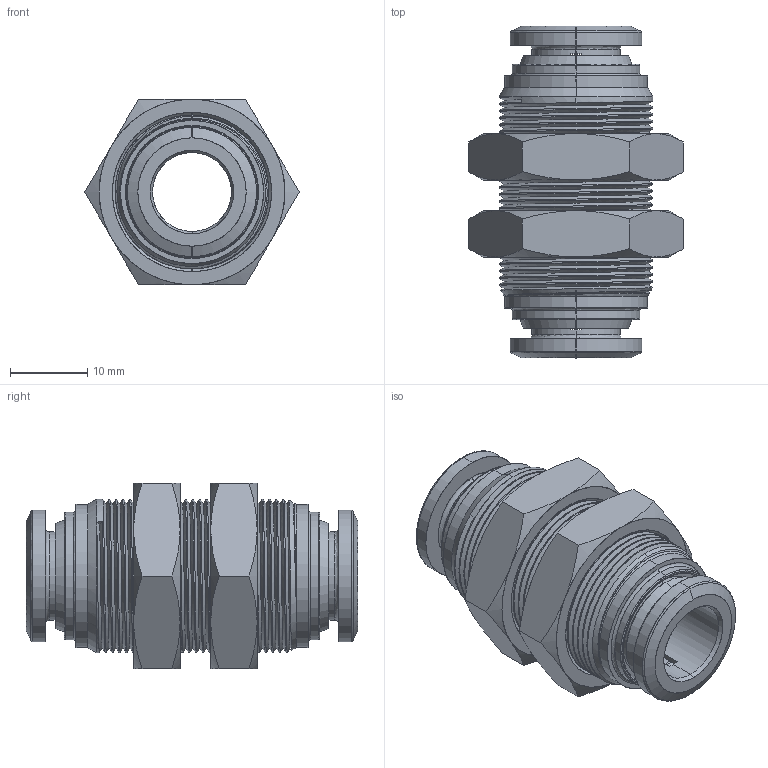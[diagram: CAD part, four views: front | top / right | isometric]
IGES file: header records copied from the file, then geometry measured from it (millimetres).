
Start section: SolidWorks IGES file using analytic representation for surfaces
Global section: file name: C:\Users\cad06\Desktop\Nuova cartella\40050V0004A.IGS; native system: SolidWorks 2016; preprocessor: SolidWorks 2016; author: cad06; date: 160516.154930; units: millimetre
Bounding box: 27.71 x 42.9 x 24 mm (x, y, z)
Surface area: 7458.9 mm2 (no closed solid volume)
Topology: 0 solids, 0 shells, 205 faces, 3165 edges, 3165 vertices
Faces by surface type: revolution 142, bspline 63
